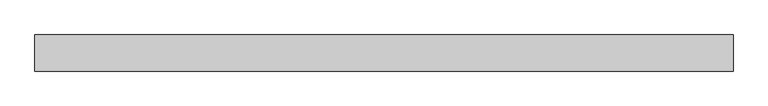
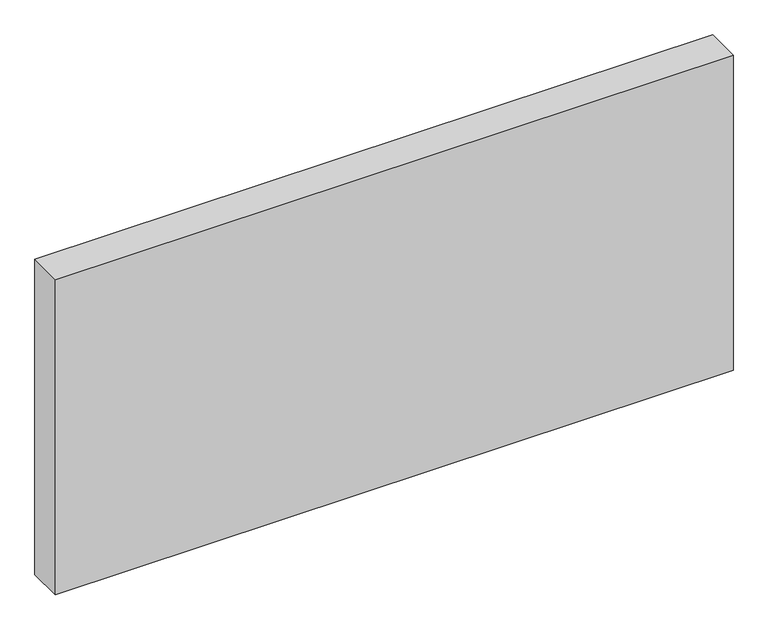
"""IFC4 building model written with IfcOpenShell, lengths in millimetres: plate geometry, Системная панель : Алюкобонд красный."""

from ifc_helpers import new_model, si_unit, origin, origin_with_axes, place, context, project, spatial, polyline, outline, extrude, source, transform, mapped, element, save


def plate_bddb2201(model_context):
    return source(origin(), model_context, "Body", "SweptSolid", [
        extrude(outline(polyline([(580.0, -10.5), (-580.0, -10.5), (-580.0, 49.5), (580.0, 49.5), (580.0, -10.5)])), origin_with_axes(), (0.0, 0.0, 1.0), 570.0),
    ])


if __name__ == "__main__":
    model = new_model("IFC4")
    model_context = context("Model", 3, world=origin())
    ifc_project = project(units=[si_unit("LENGTHUNIT", "METRE", prefix="MILLI")], contexts=[model_context])
    site = spatial("IfcSite", under=ifc_project)
    building = spatial("IfcBuilding", under=site)
    placement = place(None, origin())
    plate_shape = plate_bddb2201(model_context)
    element("IfcPlate", 1, ObjectType="Системная панель : Алюкобонд красный", at=placement, inside=building, context=model_context, shape_type="MappedRepresentation", body=[
        mapped(plate_shape, transform((0.0, 0.0, 0.0), x_axis=(1.0, 0.0, 0.0), y_axis=(0.0, 1.0, 0.0), z_axis=(0.0, 0.0, 1.0))),
    ])
    save(model, "model.ifc")
